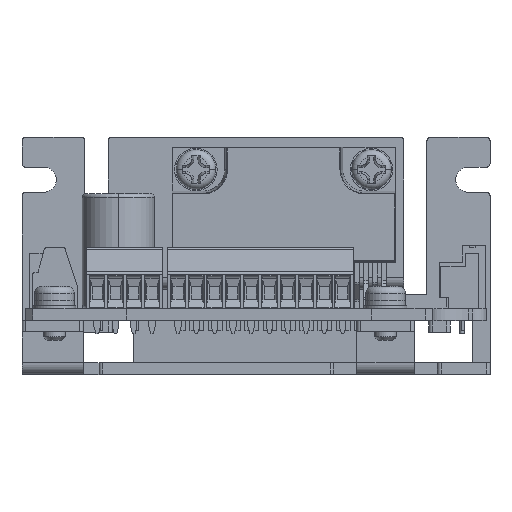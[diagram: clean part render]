
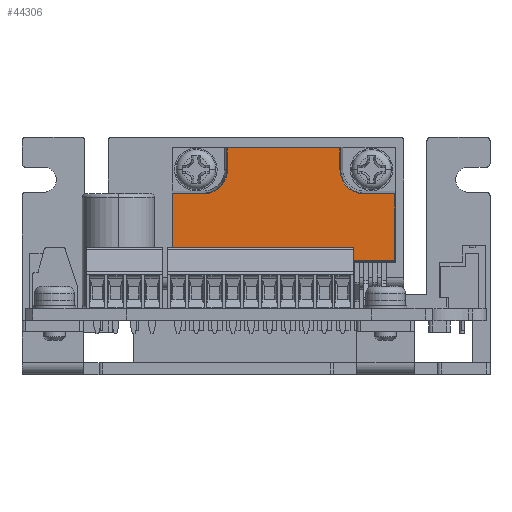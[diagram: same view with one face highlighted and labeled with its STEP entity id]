
A CAD part, top view. The second image highlights one B-rep face of the part: STEP entity #44306.
In plain terms, the highlighted planar face has unit normal (0, 0, 1).
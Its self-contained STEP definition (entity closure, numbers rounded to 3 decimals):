
#88 = VERTEX_POINT ( 'NONE', #27371 ) ;
#391 = VECTOR ( 'NONE', #29439, 1000. ) ;
#402 = CARTESIAN_POINT ( 'NONE',  ( -11.55, 15.8, -14.55 ) ) ;
#1008 = VECTOR ( 'NONE', #14363, 1000. ) ;
#1096 = CARTESIAN_POINT ( 'NONE',  ( 19.25, 15.891, -14.55 ) ) ;
#1702 = EDGE_CURVE ( 'NONE', #88, #10148, #48399, .T. ) ;
#2699 = EDGE_CURVE ( 'NONE', #28115, #88, #34548, .T. ) ;
#2924 = VECTOR ( 'NONE', #23124, 1000. ) ;
#3421 = EDGE_CURVE ( 'NONE', #12035, #40730, #23157, .T. ) ;
#3664 = EDGE_CURVE ( 'NONE', #4143, #22454, #47634, .T. ) ;
#3757 = EDGE_CURVE ( 'NONE', #40730, #4143, #21345, .T. ) ;
#3995 = CARTESIAN_POINT ( 'NONE',  ( -7.35, 25.109, -14.55 ) ) ;
#4143 = VERTEX_POINT ( 'NONE', #43729 ) ;
#5505 = FACE_OUTER_BOUND ( 'NONE', #41997, .T. ) ;
#5855 = ORIENTED_EDGE ( 'NONE', *, *, #19768, .T. ) ;
#6051 = CARTESIAN_POINT ( 'NONE',  ( 15.05, 25.109, -14.55 ) ) ;
#9055 = LINE ( 'NONE', #34782, #48580 ) ;
#9127 = EDGE_CURVE ( 'NONE', #10148, #45560, #25836, .T. ) ;
#9250 = EDGE_CURVE ( 'NONE', #9891, #12035, #29381, .T. ) ;
#9891 = VERTEX_POINT ( 'NONE', #33844 ) ;
#10148 = VERTEX_POINT ( 'NONE', #35461 ) ;
#11230 = CARTESIAN_POINT ( 'NONE',  ( -7.35, 25.109, -14.55 ) ) ;
#11295 = DIRECTION ( 'NONE',  ( -1., 0., 0. ) ) ;
#11626 = DIRECTION ( 'NONE',  ( -1., 0., 0. ) ) ;
#12035 = VERTEX_POINT ( 'NONE', #6051 ) ;
#13192 = CARTESIAN_POINT ( 'NONE',  ( 15.05, 28.5, -14.55 ) ) ;
#14171 = EDGE_CURVE ( 'NONE', #45560, #9891, #9055, .T. ) ;
#14363 = DIRECTION ( 'NONE',  ( 0., 1., 0. ) ) ;
#14740 = VECTOR ( 'NONE', #39519, 1000. ) ;
#15011 = ORIENTED_EDGE ( 'NONE', *, *, #3757, .T. ) ;
#15495 = DIRECTION ( 'NONE',  ( 1., 0., 0. ) ) ;
#16361 = VERTEX_POINT ( 'NONE', #47332 ) ;
#17795 = DIRECTION ( 'NONE',  ( 0., 0., 1. ) ) ;
#18430 = CIRCLE ( 'NONE', #25730, 3.391 ) ;
#19768 = EDGE_CURVE ( 'NONE', #16361, #28115, #18430, .T. ) ;
#20743 = DIRECTION ( 'NONE',  ( 1., 0., 0. ) ) ;
#21332 = PLANE ( 'NONE',  #42666 ) ;
#21345 = LINE ( 'NONE', #44943, #1008 ) ;
#22454 = VERTEX_POINT ( 'NONE', #32085 ) ;
#22540 = CARTESIAN_POINT ( 'NONE',  ( -7.35, 25.109, -14.55 ) ) ;
#22785 = VECTOR ( 'NONE', #11626, 1000. ) ;
#23124 = DIRECTION ( 'NONE',  ( 0., -1., 0. ) ) ;
#23157 = CIRCLE ( 'NONE', #25152, 3.391 ) ;
#25038 = CARTESIAN_POINT ( 'NONE',  ( -7.35, 28.5, -14.55 ) ) ;
#25152 = AXIS2_PLACEMENT_3D ( 'NONE', #13192, #32444, #20743 ) ;
#25730 = AXIS2_PLACEMENT_3D ( 'NONE', #30442, #38715, #15495 ) ;
#25836 = LINE ( 'NONE', #45094, #34740 ) ;
#26320 = ORIENTED_EDGE ( 'NONE', *, *, #14171, .T. ) ;
#27371 = CARTESIAN_POINT ( 'NONE',  ( -11.55, 25.109, -14.55 ) ) ;
#28115 = VERTEX_POINT ( 'NONE', #11230 ) ;
#29381 = LINE ( 'NONE', #3995, #22785 ) ;
#29439 = DIRECTION ( 'NONE',  ( -1., 0., 0. ) ) ;
#30442 = CARTESIAN_POINT ( 'NONE',  ( -7.35, 28.5, -14.55 ) ) ;
#32085 = CARTESIAN_POINT ( 'NONE',  ( -3.959, 31.5, -14.55 ) ) ;
#32359 = CARTESIAN_POINT ( 'NONE',  ( -3.959, 28.5, -14.55 ) ) ;
#32444 = DIRECTION ( 'NONE',  ( 0., 0., -1. ) ) ;
#33844 = CARTESIAN_POINT ( 'NONE',  ( 19.25, 25.109, -14.55 ) ) ;
#34548 = LINE ( 'NONE', #22540, #44680 ) ;
#34740 = VECTOR ( 'NONE', #41766, 1000. ) ;
#34782 = CARTESIAN_POINT ( 'NONE',  ( 19.25, 25.2, -14.55 ) ) ;
#35067 = LINE ( 'NONE', #32359, #14740 ) ;
#35461 = CARTESIAN_POINT ( 'NONE',  ( -11.55, 15.891, -14.55 ) ) ;
#37577 = ORIENTED_EDGE ( 'NONE', *, *, #9127, .T. ) ;
#38631 = ORIENTED_EDGE ( 'NONE', *, *, #3664, .T. ) ;
#38715 = DIRECTION ( 'NONE',  ( 0., 0., -1. ) ) ;
#39200 = ORIENTED_EDGE ( 'NONE', *, *, #1702, .T. ) ;
#39519 = DIRECTION ( 'NONE',  ( 0., -1., 0. ) ) ;
#40625 = CARTESIAN_POINT ( 'NONE',  ( 11.659, 28.5, -14.55 ) ) ;
#40730 = VERTEX_POINT ( 'NONE', #40625 ) ;
#41766 = DIRECTION ( 'NONE',  ( 1., 0., 0. ) ) ;
#41997 = EDGE_LOOP ( 'NONE', ( #39200, #37577, #26320, #43942, #46408, #15011, #38631, #47236, #5855, #42190 ) ) ;
#42190 = ORIENTED_EDGE ( 'NONE', *, *, #2699, .T. ) ;
#42666 = AXIS2_PLACEMENT_3D ( 'NONE', #25038, #17795, #44059 ) ;
#43729 = CARTESIAN_POINT ( 'NONE',  ( 11.659, 31.5, -14.55 ) ) ;
#43942 = ORIENTED_EDGE ( 'NONE', *, *, #9250, .T. ) ;
#44059 = DIRECTION ( 'NONE',  ( 1., 0., 0. ) ) ;
#44271 = EDGE_CURVE ( 'NONE', #22454, #16361, #35067, .T. ) ;
#44296 = CARTESIAN_POINT ( 'NONE',  ( -4.05, 31.5, -14.55 ) ) ;
#44306 = ADVANCED_FACE ( 'NONE', ( #5505 ), #21332, .T. ) ;
#44680 = VECTOR ( 'NONE', #11295, 1000. ) ;
#44943 = CARTESIAN_POINT ( 'NONE',  ( 11.659, 28.5, -14.55 ) ) ;
#45094 = CARTESIAN_POINT ( 'NONE',  ( 19.35, 15.891, -14.55 ) ) ;
#45560 = VERTEX_POINT ( 'NONE', #1096 ) ;
#46408 = ORIENTED_EDGE ( 'NONE', *, *, #3421, .T. ) ;
#46512 = DIRECTION ( 'NONE',  ( 0., 1., 0. ) ) ;
#47236 = ORIENTED_EDGE ( 'NONE', *, *, #44271, .T. ) ;
#47332 = CARTESIAN_POINT ( 'NONE',  ( -3.959, 28.5, -14.55 ) ) ;
#47634 = LINE ( 'NONE', #44296, #391 ) ;
#48399 = LINE ( 'NONE', #402, #2924 ) ;
#48580 = VECTOR ( 'NONE', #46512, 1000. ) ;
